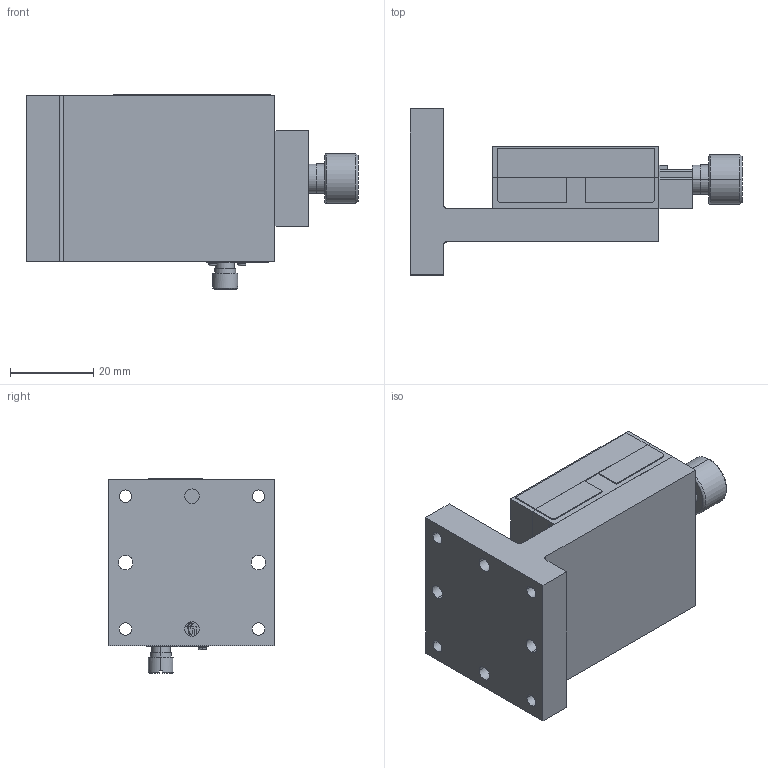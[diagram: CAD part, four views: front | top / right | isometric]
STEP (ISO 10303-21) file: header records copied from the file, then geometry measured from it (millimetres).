
FILE_DESCRIPTION (( 'STEP AP203' ), '1' );
FILE_NAME ('MC4A-40.STEP', '2008-07-19T07:13:39', ( 'user' ), ( '' ), 'SwSTEP 2.0', 'SolidWorks 2007', '' );
FILE_SCHEMA (( 'CONFIG_CONTROL_DESIGN' ));
Length unit declared in the file: millimetre
Products named in the file (1): MC4A-40
Bounding box: 80 x 40 x 46.95 mm (x, y, z)
Volume: 54529 mm3; surface area: 23694.1 mm2
Topology: 13 solids, 13 shells, 648 faces, 1683 edges, 1101 vertices
Faces by surface type: plane 378, cylinder 156, bspline 80, cone 28, torus 6
Entity records: 24247 total; most frequent: CARTESIAN_POINT 8617, ORIENTED_EDGE 3326, DIRECTION 2956, EDGE_CURVE 1663, VECTOR 1124, LINE 1124, VERTEX_POINT 1101, AXIS2_PLACEMENT_3D 916
